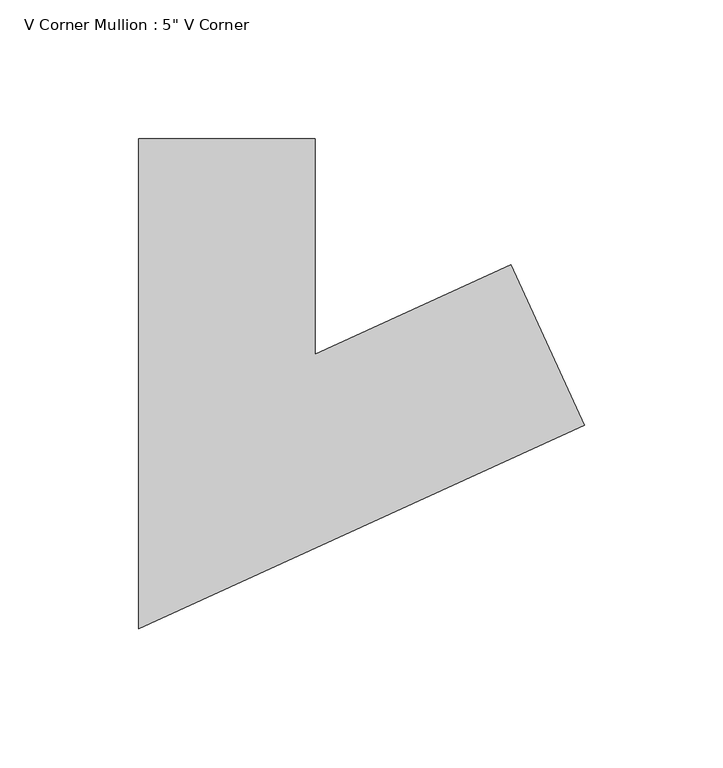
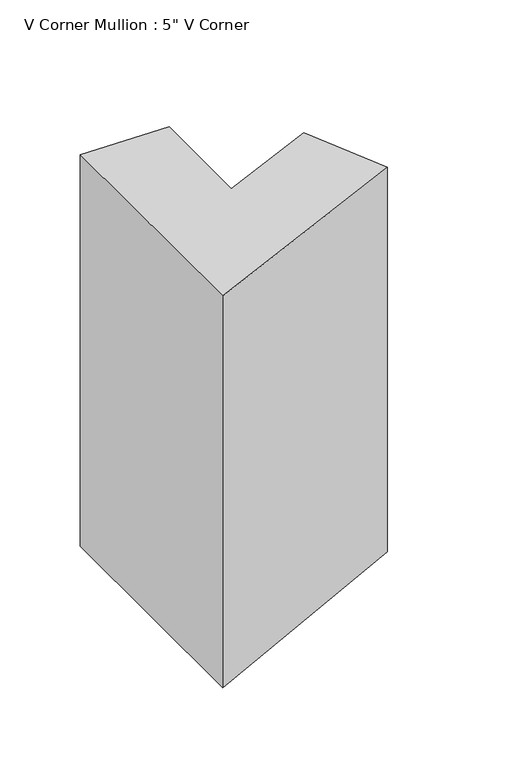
"""IFC4 building model written with IfcOpenShell, lengths in millimetres: member geometry."""

from ifc_helpers import new_model, si_unit, origin, place, context, project, spatial, faceted_brep, source, transform, mapped, element, save


def member_4fadea7a(model_context):
    return source(origin(), model_context, "Body", "Brep", [
        faceted_brep([(61.49523, 18.2208415, -1.2684475), (87.9205542, -39.5195451, -1.8135164), (87.9205542, -39.5195451, -293.2619915), (61.49523, 18.2208415, -293.6575404), (-9.0228811, -14.0523047, 0.1861128), (-9.0228811, -14.0523047, -294.7130945), (-9.0228811, 63.5, 0.1861128), (-9.0228811, 63.5, -294.7130945), (-72.5228811, 63.5, 1.4959122), (-72.5228811, 63.5, -295.6635977), (-72.5228811, -112.9476953, 1.4959122), (-72.5228811, -112.9476953, -295.6635977)], [[[0, 1, 2, 3]], [[4, 0, 3, 5]], [[6, 4, 5, 7]], [[8, 6, 7, 9]], [[10, 8, 9, 11]], [[1, 10, 11, 2]], [[1, 0, 4, 6, 8, 10]], [[2, 11, 9, 7, 5, 3]]]),
    ])


if __name__ == "__main__":
    model = new_model("IFC4")
    model_context = context("Model", 3, world=origin())
    ifc_project = project(units=[si_unit("LENGTHUNIT", "METRE", prefix="MILLI")], contexts=[model_context])
    site = spatial("IfcSite", under=ifc_project)
    building = spatial("IfcBuilding", under=site)
    placement = place(None, origin())
    member_shape = member_4fadea7a(model_context)
    element("IfcMember", 1, ObjectType="V Corner Mullion : 5\" V Corner", at=placement, inside=building, context=model_context, shape_type="MappedRepresentation", body=[
        mapped(member_shape, transform((0.0, 0.0, 0.0), x_axis=(1.0, 0.0, 0.0), y_axis=(0.0, 1.0, 0.0), z_axis=(0.0, 0.0, 1.0))),
    ])
    save(model, "model.ifc")
